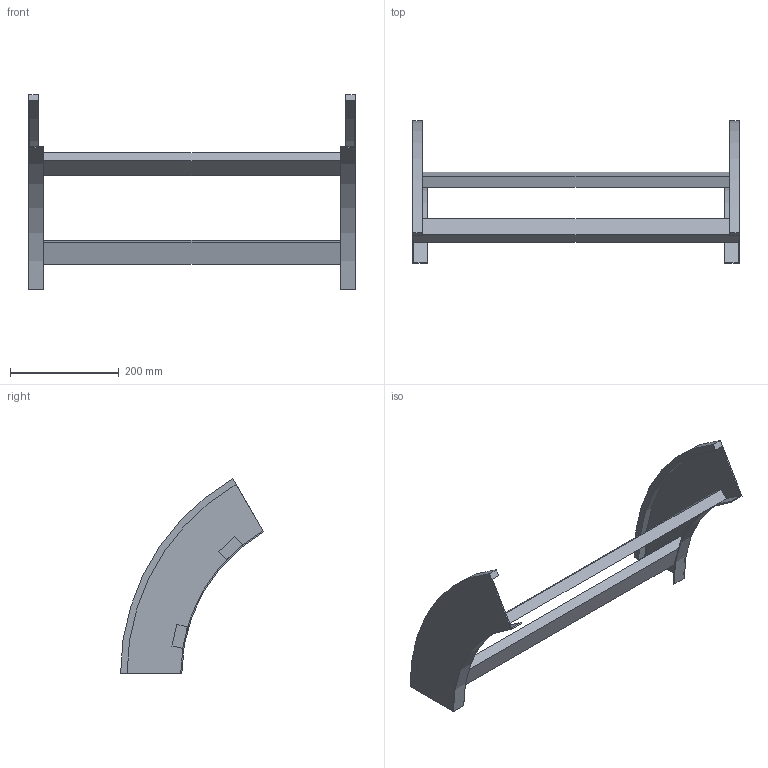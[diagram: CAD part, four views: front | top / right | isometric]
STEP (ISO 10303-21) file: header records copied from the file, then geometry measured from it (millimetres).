
FILE_DESCRIPTION (( 'STEP AP214' ), '1' );
FILE_NAME ('B2_41B3J600.step', '2025-02-21T14:59:01', ( '' ), ( '' ), 'SwSTEP 2.0', 'SolidWorks 2023', '' );
FILE_SCHEMA (( 'AUTOMOTIVE_DESIGN' ));
Length unit declared in the file: millimetre
Products named in the file (3): B2_41B3J600; TRAVERSINO_600; B2_LONGH.DISCESA_60°_H112.5_R300
Assembly tree (4 placements, depth 2):
  B2_41B3J600
    B2_LONGH.DISCESA_60°_H112.5_R300  x2
    TRAVERSINO_600  x2
Bounding box: 600 x 262.5 x 357.24 mm (x, y, z)
Volume: 1328382.9 mm3; surface area: 378967.9 mm2
Topology: 4 solids, 4 shells, 32 faces, 72 edges, 48 vertices
Faces by surface type: plane 24, cylinder 8
Entity records: 552 total; most frequent: DIRECTION 90, CARTESIAN_POINT 83, ORIENTED_EDGE 72, EDGE_CURVE 36, AXIS2_PLACEMENT_3D 31, VECTOR 28, LINE 28, VERTEX_POINT 24
